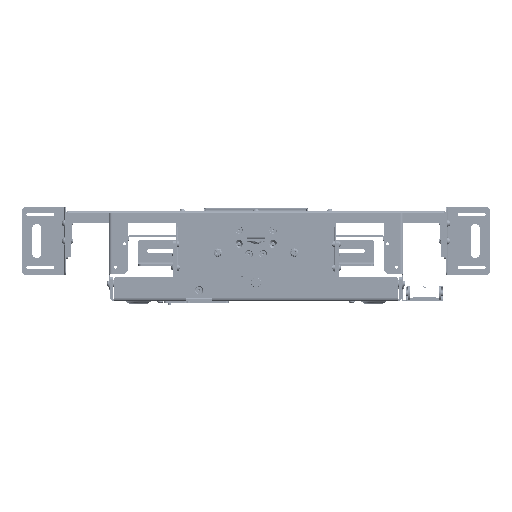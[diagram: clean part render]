
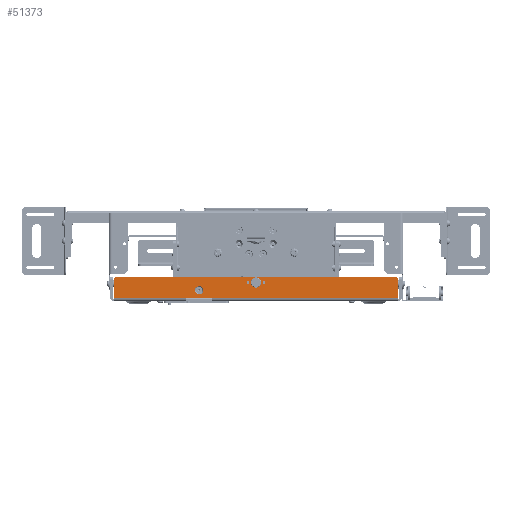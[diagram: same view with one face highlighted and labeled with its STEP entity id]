
A CAD part, front view. The second image highlights one B-rep face of the part: STEP entity #51373.
In plain terms, the highlighted planar face has unit normal (0, -1, 0).
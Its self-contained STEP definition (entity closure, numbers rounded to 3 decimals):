
#161 = VECTOR ( 'NONE', #73362, 1000. ) ;
#1015 = VERTEX_POINT ( 'NONE', #16007 ) ;
#1325 = DIRECTION ( 'NONE',  ( -1., 0., 0. ) ) ;
#3033 = EDGE_LOOP ( 'NONE', ( #91343 ) ) ;
#3049 = ORIENTED_EDGE ( 'NONE', *, *, #91492, .F. ) ;
#4083 = FACE_BOUND ( 'NONE', #3033, .T. ) ;
#4356 = VERTEX_POINT ( 'NONE', #43720 ) ;
#4449 = CARTESIAN_POINT ( 'NONE',  ( -236.3, -6.2, 37. ) ) ;
#5709 = CARTESIAN_POINT ( 'NONE',  ( 241.3, -6.2, 42. ) ) ;
#8386 = DIRECTION ( 'NONE',  ( 0., 0., -1. ) ) ;
#10467 = ORIENTED_EDGE ( 'NONE', *, *, #98075, .F. ) ;
#12976 = VERTEX_POINT ( 'NONE', #71173 ) ;
#14152 = EDGE_CURVE ( 'NONE', #29459, #78692, #61347, .T. ) ;
#15303 = EDGE_LOOP ( 'NONE', ( #21404 ) ) ;
#16007 = CARTESIAN_POINT ( 'NONE',  ( 13.5, -6.2, 34.325 ) ) ;
#16709 = CARTESIAN_POINT ( 'NONE',  ( 241.3, -6.2, 37. ) ) ;
#17216 = CARTESIAN_POINT ( 'NONE',  ( -13.5, -6.2, 32. ) ) ;
#17564 = EDGE_CURVE ( 'NONE', #1015, #1015, #61107, .T. ) ;
#18111 = DIRECTION ( 'NONE',  ( 0., 0., 1. ) ) ;
#21404 = ORIENTED_EDGE ( 'NONE', *, *, #75662, .F. ) ;
#21558 = DIRECTION ( 'NONE',  ( -1., 0., 0. ) ) ;
#22056 = LINE ( 'NONE', #52472, #62431 ) ;
#22826 = CARTESIAN_POINT ( 'NONE',  ( -241.3, -6.2, 42. ) ) ;
#23081 = AXIS2_PLACEMENT_3D ( 'NONE', #89145, #97097, #42819 ) ;
#23611 = EDGE_CURVE ( 'NONE', #30655, #12976, #84603, .T. ) ;
#23740 = VERTEX_POINT ( 'NONE', #71601 ) ;
#24049 = FACE_BOUND ( 'NONE', #74490, .T. ) ;
#26366 = DIRECTION ( 'NONE',  ( 0., 0., 1. ) ) ;
#26941 = ORIENTED_EDGE ( 'NONE', *, *, #75888, .T. ) ;
#26983 = CARTESIAN_POINT ( 'NONE',  ( -241.3, -6.2, 37. ) ) ;
#26984 = FACE_BOUND ( 'NONE', #77488, .T. ) ;
#28061 = CARTESIAN_POINT ( 'NONE',  ( -119.1, -6.2, 6.2 ) ) ;
#29459 = VERTEX_POINT ( 'NONE', #31001 ) ;
#30222 = EDGE_LOOP ( 'NONE', ( #81992, #46745, #71459, #26941, #45800, #30244, #3049, #10467 ) ) ;
#30244 = ORIENTED_EDGE ( 'NONE', *, *, #23611, .F. ) ;
#30655 = VERTEX_POINT ( 'NONE', #28061 ) ;
#31001 = CARTESIAN_POINT ( 'NONE',  ( 236.3, -6.2, 42. ) ) ;
#31271 = CIRCLE ( 'NONE', #87043, 8.6 ) ;
#32557 = CARTESIAN_POINT ( 'NONE',  ( 0., -6.2, 32. ) ) ;
#33518 = CARTESIAN_POINT ( 'NONE',  ( -241.3, -6.2, 42. ) ) ;
#34014 = DIRECTION ( 'NONE',  ( 0., 0., 1. ) ) ;
#34665 = CARTESIAN_POINT ( 'NONE',  ( 0., -6.2, 40.6 ) ) ;
#35957 = LINE ( 'NONE', #44438, #161 ) ;
#36374 = AXIS2_PLACEMENT_3D ( 'NONE', #43937, #74323, #67816 ) ;
#37001 = DIRECTION ( 'NONE',  ( -1., 0., 0. ) ) ;
#37187 = VECTOR ( 'NONE', #74005, 1000. ) ;
#39330 = ORIENTED_EDGE ( 'NONE', *, *, #17564, .T. ) ;
#40002 = AXIS2_PLACEMENT_3D ( 'NONE', #17216, #54606, #68569 ) ;
#41540 = CARTESIAN_POINT ( 'NONE',  ( -74.1, -6.2, 6.2 ) ) ;
#42819 = DIRECTION ( 'NONE',  ( 0., 0., 1. ) ) ;
#43720 = CARTESIAN_POINT ( 'NONE',  ( -13.5, -6.2, 34.325 ) ) ;
#43937 = CARTESIAN_POINT ( 'NONE',  ( -96.6, -6.2, 18.7 ) ) ;
#44301 = DIRECTION ( 'NONE',  ( 0., 0., 1. ) ) ;
#44438 = CARTESIAN_POINT ( 'NONE',  ( -119.1, -6.2, 6.2 ) ) ;
#45687 = VECTOR ( 'NONE', #8386, 1000. ) ;
#45800 = ORIENTED_EDGE ( 'NONE', *, *, #58965, .T. ) ;
#46745 = ORIENTED_EDGE ( 'NONE', *, *, #48601, .T. ) ;
#46854 = AXIS2_PLACEMENT_3D ( 'NONE', #73227, #66207, #44301 ) ;
#47981 = CIRCLE ( 'NONE', #40002, 2.325 ) ;
#48601 = EDGE_CURVE ( 'NONE', #57571, #29459, #98074, .T. ) ;
#49133 = VERTEX_POINT ( 'NONE', #65037 ) ;
#51373 = ADVANCED_FACE ( 'NONE', ( #24049, #26984, #4083, #57404, #72377 ), #87353, .F. ) ;
#52472 = CARTESIAN_POINT ( 'NONE',  ( -241.3, -6.2, 6.2 ) ) ;
#53244 = LINE ( 'NONE', #22826, #45687 ) ;
#54410 = CARTESIAN_POINT ( 'NONE',  ( -241.3, -6.2, 42. ) ) ;
#54606 = DIRECTION ( 'NONE',  ( 0., 1., 0. ) ) ;
#54674 = CARTESIAN_POINT ( 'NONE',  ( -241.3, -6.2, 6.2 ) ) ;
#54791 = VECTOR ( 'NONE', #1325, 1000. ) ;
#57404 = FACE_OUTER_BOUND ( 'NONE', #30222, .T. ) ;
#57571 = VERTEX_POINT ( 'NONE', #16709 ) ;
#58615 = AXIS2_PLACEMENT_3D ( 'NONE', #4449, #79255, #26366 ) ;
#58965 = EDGE_CURVE ( 'NONE', #62685, #12976, #53244, .T. ) ;
#61107 = CIRCLE ( 'NONE', #46854, 2.325 ) ;
#61347 = LINE ( 'NONE', #54410, #61797 ) ;
#61797 = VECTOR ( 'NONE', #37001, 1000. ) ;
#62431 = VECTOR ( 'NONE', #21558, 1000. ) ;
#62685 = VERTEX_POINT ( 'NONE', #26983 ) ;
#63451 = DIRECTION ( 'NONE',  ( 0., 1., 0. ) ) ;
#63999 = EDGE_CURVE ( 'NONE', #4356, #4356, #47981, .T. ) ;
#64048 = VERTEX_POINT ( 'NONE', #34665 ) ;
#65037 = CARTESIAN_POINT ( 'NONE',  ( -96.6, -6.2, 11.7 ) ) ;
#65083 = VERTEX_POINT ( 'NONE', #41540 ) ;
#66207 = DIRECTION ( 'NONE',  ( 0., 1., 0. ) ) ;
#67816 = DIRECTION ( 'NONE',  ( 0., 0., -1. ) ) ;
#68569 = DIRECTION ( 'NONE',  ( 0., 0., 1. ) ) ;
#68735 = CARTESIAN_POINT ( 'NONE',  ( -236.3, -6.2, 42. ) ) ;
#71173 = CARTESIAN_POINT ( 'NONE',  ( -241.3, -6.2, 6.2 ) ) ;
#71459 = ORIENTED_EDGE ( 'NONE', *, *, #14152, .T. ) ;
#71601 = CARTESIAN_POINT ( 'NONE',  ( 241.3, -6.2, 6.2 ) ) ;
#72377 = FACE_BOUND ( 'NONE', #15303, .T. ) ;
#73227 = CARTESIAN_POINT ( 'NONE',  ( 13.5, -6.2, 32. ) ) ;
#73362 = DIRECTION ( 'NONE',  ( -1., 0., 0. ) ) ;
#73945 = EDGE_CURVE ( 'NONE', #64048, #64048, #31271, .T. ) ;
#74005 = DIRECTION ( 'NONE',  ( 0., 0., 1. ) ) ;
#74323 = DIRECTION ( 'NONE',  ( 0., -1., 0. ) ) ;
#74490 = EDGE_LOOP ( 'NONE', ( #76172 ) ) ;
#75662 = EDGE_CURVE ( 'NONE', #49133, #49133, #93714, .T. ) ;
#75888 = EDGE_CURVE ( 'NONE', #78692, #62685, #82541, .T. ) ;
#76172 = ORIENTED_EDGE ( 'NONE', *, *, #63999, .T. ) ;
#77488 = EDGE_LOOP ( 'NONE', ( #39330 ) ) ;
#78692 = VERTEX_POINT ( 'NONE', #68735 ) ;
#79255 = DIRECTION ( 'NONE',  ( 0., -1., 0. ) ) ;
#79870 = DIRECTION ( 'NONE',  ( 0., 1., 0. ) ) ;
#80824 = AXIS2_PLACEMENT_3D ( 'NONE', #33518, #79870, #34014 ) ;
#81992 = ORIENTED_EDGE ( 'NONE', *, *, #95458, .T. ) ;
#82475 = LINE ( 'NONE', #5709, #37187 ) ;
#82541 = CIRCLE ( 'NONE', #58615, 5. ) ;
#84603 = LINE ( 'NONE', #54674, #54791 ) ;
#87043 = AXIS2_PLACEMENT_3D ( 'NONE', #32557, #63451, #18111 ) ;
#87353 = PLANE ( 'NONE',  #80824 ) ;
#89145 = CARTESIAN_POINT ( 'NONE',  ( 236.3, -6.2, 37. ) ) ;
#91343 = ORIENTED_EDGE ( 'NONE', *, *, #73945, .T. ) ;
#91492 = EDGE_CURVE ( 'NONE', #65083, #30655, #35957, .T. ) ;
#93714 = CIRCLE ( 'NONE', #36374, 7. ) ;
#95458 = EDGE_CURVE ( 'NONE', #23740, #57571, #82475, .T. ) ;
#97097 = DIRECTION ( 'NONE',  ( 0., -1., 0. ) ) ;
#98074 = CIRCLE ( 'NONE', #23081, 5. ) ;
#98075 = EDGE_CURVE ( 'NONE', #23740, #65083, #22056, .T. ) ;
